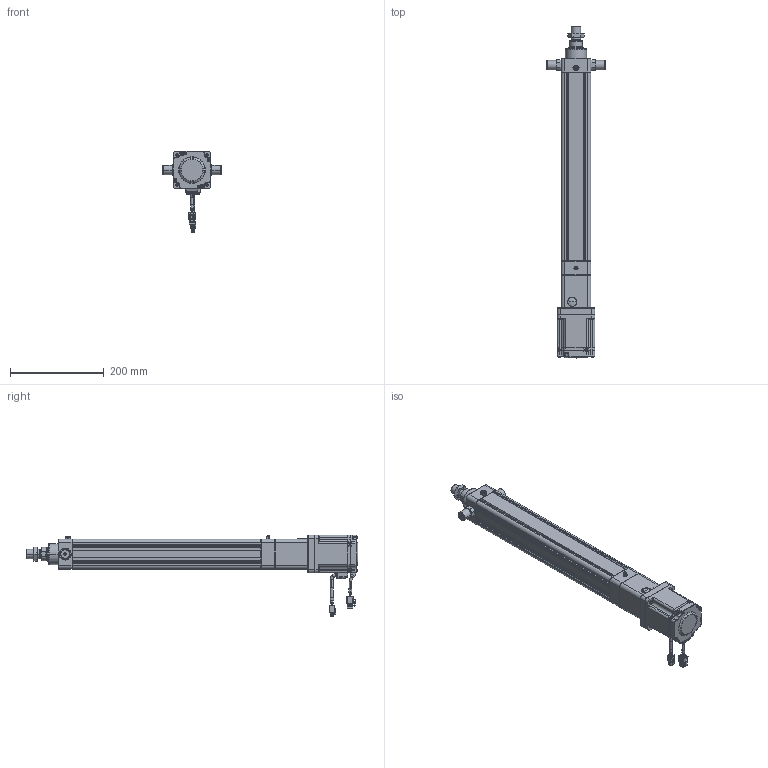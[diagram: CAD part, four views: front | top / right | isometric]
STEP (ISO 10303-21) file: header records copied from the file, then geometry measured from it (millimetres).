
FILE_DESCRIPTION((''),'2;1');
FILE_NAME('HE50-D-100-X1_ASM','2020-05-21T',('ASUS20200'),(''),'CREO PARAMETRIC BY PTC INC, 2014190','CREO PARAMETRIC BY PTC INC, 2014190','');
FILE_SCHEMA(('CONFIG_CONTROL_DESIGN'));
Length unit declared in the file: millimetre
Products named in the file (26): HE50-D-P-001-X1; HE50-D-P-002-X1; HE50-D-P-003-X1; HE50-D-009-X1; HE50-D-010-X1; 6301ZZ; LGLM-M8-22; SKT-16; SLM-01; YZ-M6X1; _MHMF082L1A2; _CABLE_MOTOR_BOTTOM_05; _CABLE_MOTOR_TOP_05; _MOTOR_CONNECTOR_2; _CABLE_BRAKE_BOTTOM_05; _CABLE_BRAKE_TOP_05; _MHMF_CONNECTOR_9_PIN_A6; MHMF082L1A2M2_1_ASM; M6X16; JX6X6X20; JDB303820; HE50-TC; HE50-D-P-005-X1; HE50-D-P-004-X1; HE50-D-P-008-X1; HE50-D-100-X1_ASM
Assembly tree (36 placements, depth 3):
  HE50-D-100-X1_ASM
    HE50-D-P-001-X1
    HE50-D-P-002-X1
    HE50-D-P-003-X1
    HE50-D-009-X1
    HE50-D-010-X1
    6301ZZ
    LGLM-M8-22  x8
    SKT-16
    SLM-01
    YZ-M6X1
    MHMF082L1A2M2_1_ASM
      _MHMF082L1A2
      _CABLE_MOTOR_BOTTOM_05
      _CABLE_MOTOR_TOP_05
      _MOTOR_CONNECTOR_2
      _CABLE_BRAKE_BOTTOM_05
      _CABLE_BRAKE_TOP_05
      _MHMF_CONNECTOR_9_PIN_A6
    M6X16  x4
    JX6X6X20
    JDB303820
    HE50-TC  x2
    HE50-D-P-005-X1
    HE50-D-P-004-X1
    HE50-D-P-008-X1
Bounding box: 124 x 708.4 x 173.65 mm (x, y, z)
Volume: 1769651.5 mm3; surface area: 489286.6 mm2
Topology: 35 solids, 65 shells, 2585 faces, 6301 edges, 3913 vertices
Faces by surface type: plane 1098, cylinder 749, cone 589, torus 102, sphere 44, bspline 3
Entity records: 67169 total; most frequent: CARTESIAN_POINT 12764, DIRECTION 11919, ORIENTED_EDGE 10734, EDGE_CURVE 5423, AXIS2_PLACEMENT_3D 4452, VERTEX_POINT 3397, VECTOR 3015, LINE 3015
